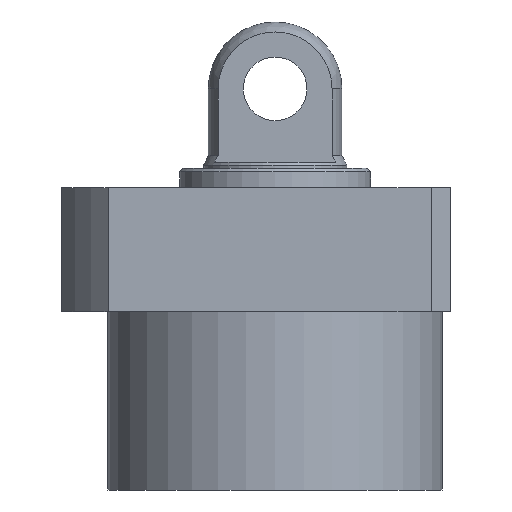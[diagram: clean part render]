
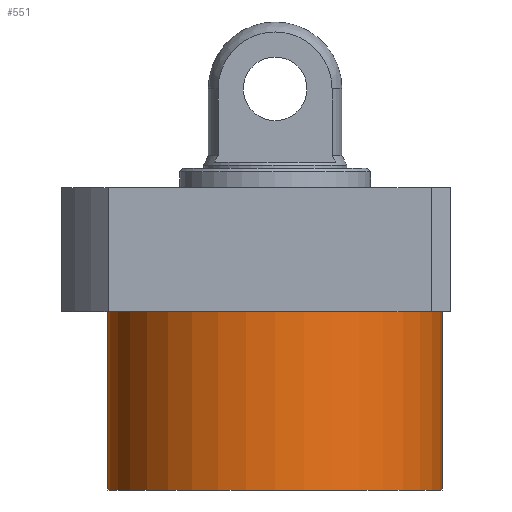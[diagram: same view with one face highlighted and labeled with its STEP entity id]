
A CAD part, front view. The second image highlights one B-rep face of the part: STEP entity #551.
In plain terms, the highlighted cylindrical face has radius 52.5 mm (diameter 105 mm), a partial arc.
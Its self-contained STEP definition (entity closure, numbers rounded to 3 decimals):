
#3 = FACE_OUTER_BOUND ( 'NONE', #1007, .T. ) ;
#47 = AXIS2_PLACEMENT_3D ( 'NONE', #1077, #922, #534 ) ;
#58 = VECTOR ( 'NONE', #1099, 1000. ) ;
#155 = VERTEX_POINT ( 'NONE', #1328 ) ;
#357 = VERTEX_POINT ( 'NONE', #1548 ) ;
#376 = CIRCLE ( 'NONE', #1474, 52.5 ) ;
#394 = VECTOR ( 'NONE', #865, 1000. ) ;
#395 = EDGE_CURVE ( 'NONE', #843, #155, #626, .T. ) ;
#408 = CARTESIAN_POINT ( 'NONE',  ( 52.5, 0., -75.5 ) ) ;
#414 = VERTEX_POINT ( 'NONE', #426 ) ;
#417 = EDGE_CURVE ( 'NONE', #843, #357, #376, .T. ) ;
#426 = CARTESIAN_POINT ( 'NONE',  ( -52.5, 0., -19.5 ) ) ;
#534 = DIRECTION ( 'NONE',  ( 1., 0., 0. ) ) ;
#551 = ADVANCED_FACE ( 'NONE', ( #3 ), #1366, .T. ) ;
#575 = CARTESIAN_POINT ( 'NONE',  ( 52.5, 0., -75.5 ) ) ;
#612 = DIRECTION ( 'NONE',  ( -1., 0., 0. ) ) ;
#626 = LINE ( 'NONE', #575, #58 ) ;
#843 = VERTEX_POINT ( 'NONE', #408 ) ;
#844 = DIRECTION ( 'NONE',  ( 0., 0., -1. ) ) ;
#865 = DIRECTION ( 'NONE',  ( 0., 0., 1. ) ) ;
#922 = DIRECTION ( 'NONE',  ( 0., 0., -1. ) ) ;
#1007 = EDGE_LOOP ( 'NONE', ( #1248, #1221, #1149, #1427 ) ) ;
#1026 = EDGE_CURVE ( 'NONE', #357, #414, #1087, .T. ) ;
#1037 = CARTESIAN_POINT ( 'NONE',  ( 0., 0., -75.5 ) ) ;
#1077 = CARTESIAN_POINT ( 'NONE',  ( 0., 0., -19.5 ) ) ;
#1087 = LINE ( 'NONE', #1444, #394 ) ;
#1099 = DIRECTION ( 'NONE',  ( 0., 0., 1. ) ) ;
#1149 = ORIENTED_EDGE ( 'NONE', *, *, #395, .T. ) ;
#1221 = ORIENTED_EDGE ( 'NONE', *, *, #417, .F. ) ;
#1248 = ORIENTED_EDGE ( 'NONE', *, *, #1026, .F. ) ;
#1299 = DIRECTION ( 'NONE',  ( 0., 0., 1. ) ) ;
#1328 = CARTESIAN_POINT ( 'NONE',  ( 52.5, 0., -19.5 ) ) ;
#1366 = CYLINDRICAL_SURFACE ( 'NONE', #1672, 52.5 ) ;
#1404 = CARTESIAN_POINT ( 'NONE',  ( 0., 0., -75.5 ) ) ;
#1427 = ORIENTED_EDGE ( 'NONE', *, *, #1630, .T. ) ;
#1444 = CARTESIAN_POINT ( 'NONE',  ( -52.5, 0., -75.5 ) ) ;
#1448 = DIRECTION ( 'NONE',  ( 1., 0., 0. ) ) ;
#1474 = AXIS2_PLACEMENT_3D ( 'NONE', #1404, #844, #612 ) ;
#1548 = CARTESIAN_POINT ( 'NONE',  ( -52.5, 0., -75.5 ) ) ;
#1630 = EDGE_CURVE ( 'NONE', #155, #414, #1745, .T. ) ;
#1672 = AXIS2_PLACEMENT_3D ( 'NONE', #1037, #1299, #1448 ) ;
#1745 = CIRCLE ( 'NONE', #47, 52.5 ) ;
